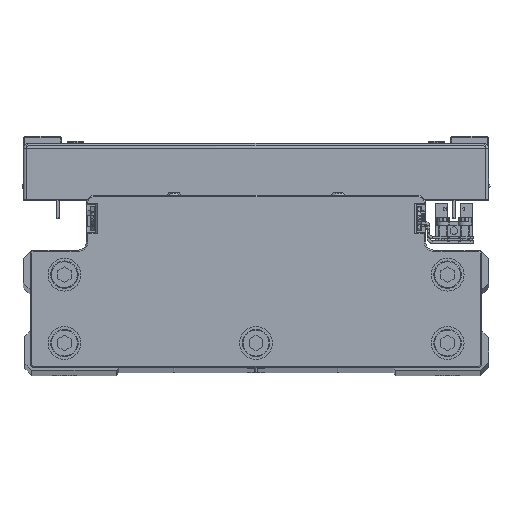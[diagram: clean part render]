
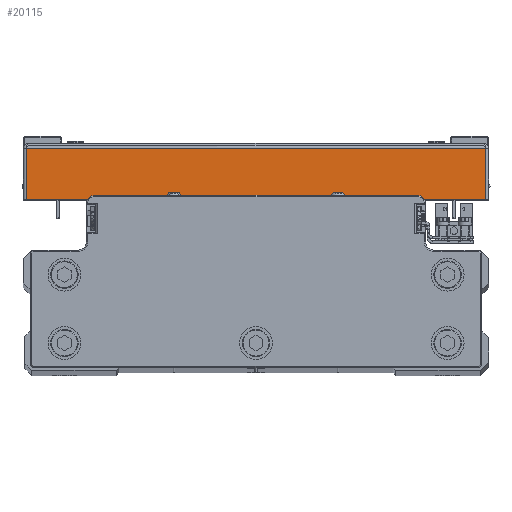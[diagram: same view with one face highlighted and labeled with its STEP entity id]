
A CAD part, top view. The second image highlights one B-rep face of the part: STEP entity #20115.
In plain terms, the highlighted planar face has unit normal (0, 0, 1) as drawn and (1, 0, 0) by its records, which use the part's own axes.
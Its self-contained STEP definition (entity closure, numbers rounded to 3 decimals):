
#3632 = ORIENTED_EDGE ( 'NONE', *, *, #13985, .T. ) ;
#4646 = VERTEX_POINT ( 'NONE', #38348 ) ;
#4659 = DIRECTION ( 'NONE',  ( -1., 0., 0. ) ) ;
#6557 = EDGE_CURVE ( 'NONE', #40300, #27468, #24104, .T. ) ;
#6714 = DIRECTION ( 'NONE',  ( 0., 0., 1. ) ) ;
#7719 = CARTESIAN_POINT ( 'NONE',  ( 110., 0., 83.929 ) ) ;
#8117 = FACE_OUTER_BOUND ( 'NONE', #16814, .T. ) ;
#8647 = CARTESIAN_POINT ( 'NONE',  ( 110., 1., -83.929 ) ) ;
#8759 = VECTOR ( 'NONE', #21683, 1000. ) ;
#10049 = CARTESIAN_POINT ( 'NONE',  ( 110., 0., -83.929 ) ) ;
#10539 = ORIENTED_EDGE ( 'NONE', *, *, #41854, .F. ) ;
#12779 = VECTOR ( 'NONE', #6714, 1000. ) ;
#13221 = DIRECTION ( 'NONE',  ( 0., 0., 1. ) ) ;
#13985 = EDGE_CURVE ( 'NONE', #39181, #4646, #30603, .T. ) ;
#14510 = VECTOR ( 'NONE', #23997, 1000. ) ;
#15363 = ORIENTED_EDGE ( 'NONE', *, *, #34728, .T. ) ;
#16814 = EDGE_LOOP ( 'NONE', ( #23586, #15363, #3632, #10539 ) ) ;
#18621 = DIRECTION ( 'NONE',  ( 0., -1., 0. ) ) ;
#19580 = CARTESIAN_POINT ( 'NONE',  ( 110., 19.5, -83.929 ) ) ;
#20115 = ADVANCED_FACE ( 'NONE', ( #8117 ), #22056, .F. ) ;
#21683 = DIRECTION ( 'NONE',  ( 0., 1., 0. ) ) ;
#22056 = PLANE ( 'NONE',  #38231 ) ;
#23586 = ORIENTED_EDGE ( 'NONE', *, *, #6557, .F. ) ;
#23997 = DIRECTION ( 'NONE',  ( 0., 1., 0. ) ) ;
#24104 = LINE ( 'NONE', #38020, #12779 ) ;
#27468 = VERTEX_POINT ( 'NONE', #32376 ) ;
#30603 = LINE ( 'NONE', #44550, #39820 ) ;
#32376 = CARTESIAN_POINT ( 'NONE',  ( 110., 1., 83.929 ) ) ;
#34728 = EDGE_CURVE ( 'NONE', #40300, #39181, #41357, .T. ) ;
#35975 = CARTESIAN_POINT ( 'NONE',  ( 110., 0., 0. ) ) ;
#38020 = CARTESIAN_POINT ( 'NONE',  ( 110., 1., 85. ) ) ;
#38231 = AXIS2_PLACEMENT_3D ( 'NONE', #35975, #4659, #18621 ) ;
#38348 = CARTESIAN_POINT ( 'NONE',  ( 110., 19.5, 83.929 ) ) ;
#39015 = LINE ( 'NONE', #7719, #8759 ) ;
#39181 = VERTEX_POINT ( 'NONE', #19580 ) ;
#39820 = VECTOR ( 'NONE', #13221, 1000. ) ;
#40300 = VERTEX_POINT ( 'NONE', #8647 ) ;
#41357 = LINE ( 'NONE', #10049, #14510 ) ;
#41854 = EDGE_CURVE ( 'NONE', #27468, #4646, #39015, .T. ) ;
#44550 = CARTESIAN_POINT ( 'NONE',  ( 110., 19.5, 0. ) ) ;
